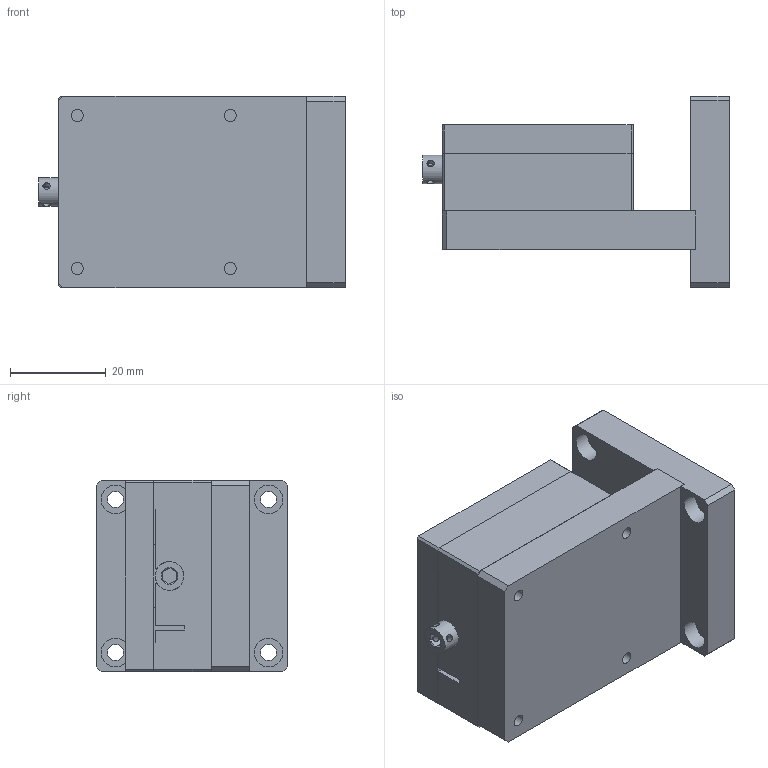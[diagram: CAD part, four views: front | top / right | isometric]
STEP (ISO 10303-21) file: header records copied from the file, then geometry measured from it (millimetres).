
FILE_DESCRIPTION (( 'STEP AP203' ), '1' );
FILE_NAME ('BKZ40.STEP', '2024-07-31T08:06:52', ( 'Windows User' ), ( 'P R C' ), 'SwSTEP 2.0', 'SolidWorks 2024', '' );
FILE_SCHEMA (( 'CONFIG_CONTROL_DESIGN' ));
Length unit declared in the file: millimetre
Products named in the file (1): BKZ40
Bounding box: 64 x 40 x 40 mm (x, y, z)
Volume: 54023.3 mm3; surface area: 24531.9 mm2
Topology: 7 solids, 7 shells, 216 faces, 546 edges, 355 vertices
Faces by surface type: plane 135, cylinder 62, cone 17, torus 2
Full cylindrical faces by diameter (mm): 1.5 x4, 2.5 x17, 3 x4, 3.3 x5, 3.4 x6, 3.5 x1, 4 x1, 4.5 x1, 5.5 x2, 6 x11
Entity records: 6204 total; most frequent: CARTESIAN_POINT 1211, DIRECTION 1009, ORIENTED_EDGE 898, EDGE_CURVE 449, AXIS2_PLACEMENT_3D 358, EDGE_LOOP 343, VERTEX_POINT 330, LINE 293
